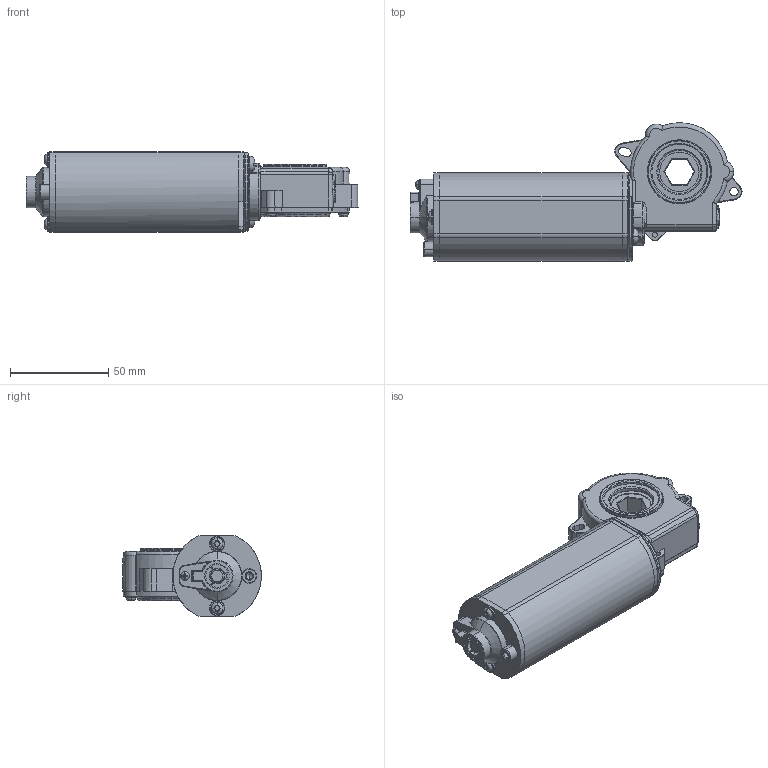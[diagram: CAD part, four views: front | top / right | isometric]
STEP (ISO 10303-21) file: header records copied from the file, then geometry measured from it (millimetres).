
FILE_DESCRIPTION (( 'STEP AP203' ), '1' );
FILE_NAME ('3D_TGM7-A.STEP', '2017-02-10T02:45:06', ( 'Phil Lee' ), ( 'Toshiba' ), 'SwSTEP 2.0', 'SolidWorks 2015', '' );
FILE_SCHEMA (( 'CONFIG_CONTROL_DESIGN' ));
Length unit declared in the file: millimetre
Products named in the file (1): 3D_TGM7-A
Bounding box: 168.82 x 70.47 x 40.79 mm (x, y, z)
Volume: 73230.7 mm3; surface area: 57592.1 mm2
Topology: 1 solids, 5 shells, 946 faces, 2653 edges, 1624 vertices
Faces by surface type: plane 318, cylinder 253, torus 195, cone 75, sphere 68, bspline 37
Entity records: 35805 total; most frequent: CARTESIAN_POINT 12561, ORIENTED_EDGE 5028, DIRECTION 4737, EDGE_CURVE 2514, AXIS2_PLACEMENT_3D 1918, VERTEX_POINT 1546, EDGE_LOOP 1096, CIRCLE 1008
